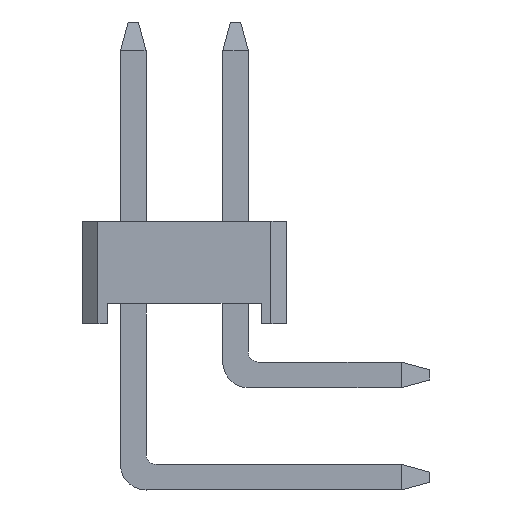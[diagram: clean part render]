
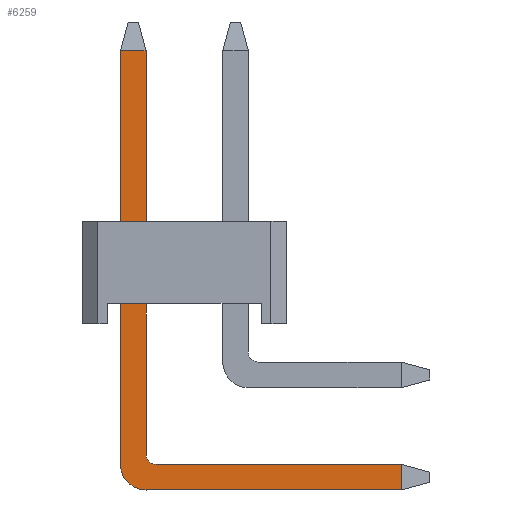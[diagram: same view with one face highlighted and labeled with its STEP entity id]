
A CAD part, left-side view. The second image highlights one B-rep face of the part: STEP entity #6259.
In plain terms, the highlighted planar face has unit normal (-1, 0, 0) as drawn and (0, 0, 1) by its records, which use the part's own axes.
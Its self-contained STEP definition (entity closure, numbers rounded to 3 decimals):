
#385 = EDGE_CURVE ( 'NONE', #1104, #1137, #7253, .T. ) ;
#386 = EDGE_CURVE ( 'NONE', #1052, #1104, #7316, .T. ) ;
#387 = EDGE_CURVE ( 'NONE', #6275, #1052, #1215, .T. ) ;
#393 = EDGE_CURVE ( 'NONE', #1131, #6275, #7341, .T. ) ;
#395 = EDGE_CURVE ( 'NONE', #1082, #1131, #7353, .T. ) ;
#396 = EDGE_CURVE ( 'NONE', #1116, #1082, #7356, .T. ) ;
#398 = EDGE_CURVE ( 'NONE', #1106, #1116, #1223, .T. ) ;
#403 = EDGE_CURVE ( 'NONE', #1137, #1106, #7369, .T. ) ;
#1052 = VERTEX_POINT ( 'NONE', #7697 ) ;
#1082 = VERTEX_POINT ( 'NONE', #7727 ) ;
#1104 = VERTEX_POINT ( 'NONE', #7749 ) ;
#1106 = VERTEX_POINT ( 'NONE', #7751 ) ;
#1116 = VERTEX_POINT ( 'NONE', #7761 ) ;
#1131 = VERTEX_POINT ( 'NONE', #7776 ) ;
#1137 = VERTEX_POINT ( 'NONE', #7782 ) ;
#1211 = VECTOR ( 'NONE', #7327, 1000. ) ;
#1213 = VECTOR ( 'NONE', #7329, 1000. ) ;
#1215 = CIRCLE ( 'NONE', #1217, 0.2 ) ;
#1217 = AXIS2_PLACEMENT_3D ( 'NONE', #7331, #7332, #7333 ) ;
#1222 = VECTOR ( 'NONE', #7349, 1000. ) ;
#1223 = CIRCLE ( 'NONE', #1230, 0.5 ) ;
#1225 = VECTOR ( 'NONE', #7355, 1000. ) ;
#1226 = VECTOR ( 'NONE', #7358, 1000. ) ;
#1230 = AXIS2_PLACEMENT_3D ( 'NONE', #7364, #7365, #7366 ) ;
#1234 = VECTOR ( 'NONE', #7380, 1000. ) ;
#2195 = EDGE_LOOP ( 'NONE', ( #8928, #8926, #8924, #8922, #8931, #8929, #8927, #8925 ) ) ;
#3228 = PLANE ( 'NONE',  #8708 ) ;
#3243 = FACE_OUTER_BOUND ( 'NONE', #2195, .T. ) ;
#3253 = CARTESIAN_POINT ( 'NONE',  ( 0., 24.156, 0.5 ) ) ;
#3254 = DIRECTION ( 'NONE',  ( 0., 0., 1. ) ) ;
#3255 = DIRECTION ( 'NONE',  ( 1., 0., 0. ) ) ;
#3334 = CARTESIAN_POINT ( 'NONE',  ( 0.7, 24.656, 0.5 ) ) ;
#6259 = ADVANCED_FACE ( 'NONE', ( #3243 ), #3228, .T. ) ;
#6275 = VERTEX_POINT ( 'NONE', #3334 ) ;
#7253 = LINE ( 'NONE', #7325, #1211 ) ;
#7316 = LINE ( 'NONE', #7328, #1213 ) ;
#7325 = CARTESIAN_POINT ( 'NONE',  ( 2.745, 32.746, 0.5 ) ) ;
#7327 = DIRECTION ( 'NONE',  ( -1., 0., 0. ) ) ;
#7328 = CARTESIAN_POINT ( 'NONE',  ( 0.5, 28.801, 0.5 ) ) ;
#7329 = DIRECTION ( 'NONE',  ( 0., 1., 0. ) ) ;
#7331 = CARTESIAN_POINT ( 'NONE',  ( 0.7, 24.856, 0.5 ) ) ;
#7332 = DIRECTION ( 'NONE',  ( 0., 0., -1. ) ) ;
#7333 = DIRECTION ( 'NONE',  ( 1., 0., 0. ) ) ;
#7341 = LINE ( 'NONE', #7348, #1222 ) ;
#7348 = CARTESIAN_POINT ( 'NONE',  ( 2.745, 24.656, 0.5 ) ) ;
#7349 = DIRECTION ( 'NONE',  ( -1., 0., 0. ) ) ;
#7353 = LINE ( 'NONE', #7354, #1225 ) ;
#7354 = CARTESIAN_POINT ( 'NONE',  ( 5.49, 28.451, 0.5 ) ) ;
#7355 = DIRECTION ( 'NONE',  ( 0., 1., 0. ) ) ;
#7356 = LINE ( 'NONE', #7357, #1226 ) ;
#7357 = CARTESIAN_POINT ( 'NONE',  ( 2.745, 24.156, 0.5 ) ) ;
#7358 = DIRECTION ( 'NONE',  ( 1., 0., 0. ) ) ;
#7364 = CARTESIAN_POINT ( 'NONE',  ( 0.5, 24.656, 0.5 ) ) ;
#7365 = DIRECTION ( 'NONE',  ( 0., 0., 1. ) ) ;
#7366 = DIRECTION ( 'NONE',  ( -1., 0., 0. ) ) ;
#7369 = LINE ( 'NONE', #7379, #1234 ) ;
#7379 = CARTESIAN_POINT ( 'NONE',  ( 0., 28.451, 0.5 ) ) ;
#7380 = DIRECTION ( 'NONE',  ( 0., -1., 0. ) ) ;
#7697 = CARTESIAN_POINT ( 'NONE',  ( 0.5, 24.856, 0.5 ) ) ;
#7727 = CARTESIAN_POINT ( 'NONE',  ( 5.49, 24.156, 0.5 ) ) ;
#7749 = CARTESIAN_POINT ( 'NONE',  ( 0.5, 32.746, 0.5 ) ) ;
#7751 = CARTESIAN_POINT ( 'NONE',  ( 0., 24.656, 0.5 ) ) ;
#7761 = CARTESIAN_POINT ( 'NONE',  ( 0.5, 24.156, 0.5 ) ) ;
#7776 = CARTESIAN_POINT ( 'NONE',  ( 5.49, 24.656, 0.5 ) ) ;
#7782 = CARTESIAN_POINT ( 'NONE',  ( 0., 32.746, 0.5 ) ) ;
#8708 = AXIS2_PLACEMENT_3D ( 'NONE', #3253, #3254, #3255 ) ;
#8922 = ORIENTED_EDGE ( 'NONE', *, *, #398, .T. ) ;
#8924 = ORIENTED_EDGE ( 'NONE', *, *, #403, .T. ) ;
#8925 = ORIENTED_EDGE ( 'NONE', *, *, #387, .T. ) ;
#8926 = ORIENTED_EDGE ( 'NONE', *, *, #385, .T. ) ;
#8927 = ORIENTED_EDGE ( 'NONE', *, *, #393, .T. ) ;
#8928 = ORIENTED_EDGE ( 'NONE', *, *, #386, .T. ) ;
#8929 = ORIENTED_EDGE ( 'NONE', *, *, #395, .T. ) ;
#8931 = ORIENTED_EDGE ( 'NONE', *, *, #396, .T. ) ;
